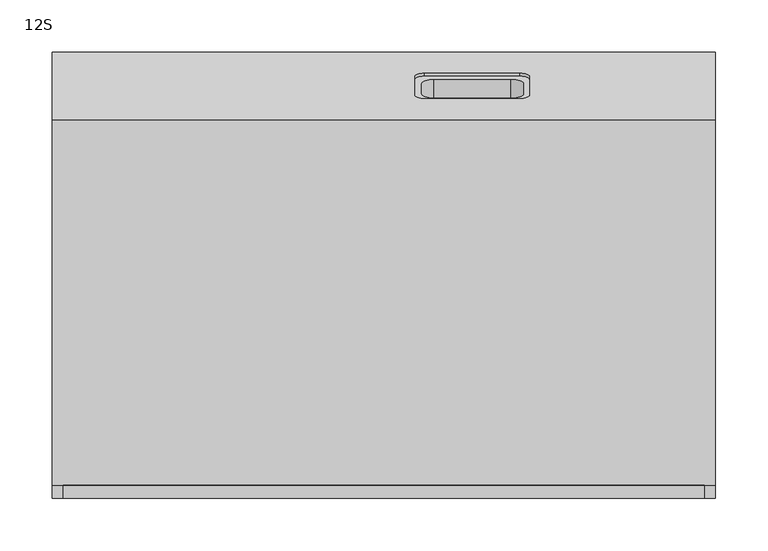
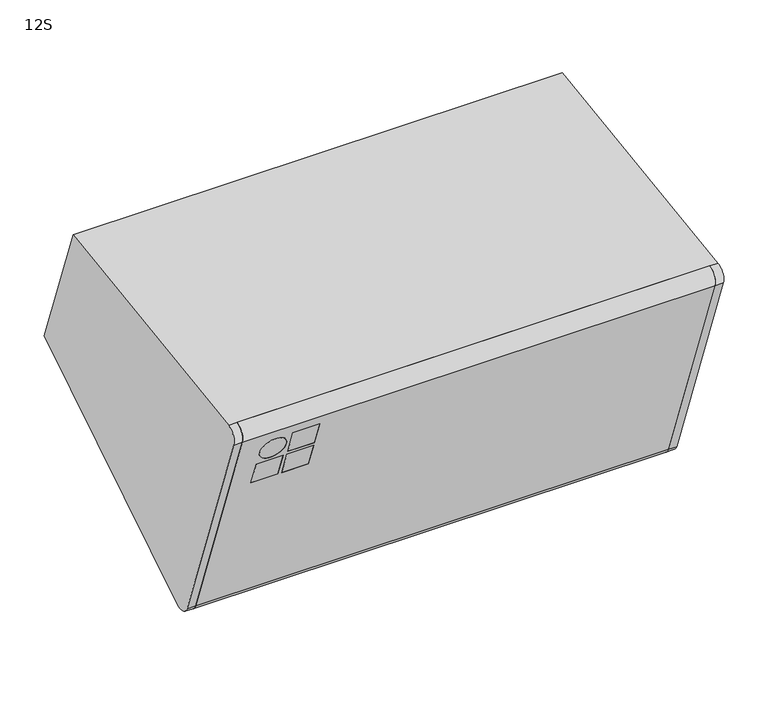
"""IFC4 building model written with IfcOpenShell, lengths in millimetres: proxy geometry, d&b xS-Series 12S Point Source : 12S."""

from ifc_helpers import new_model, si_unit, point, frame, frame_2d, origin, place, context, project, spatial, polyline, circle_curve, trimmed, segment, composite_curve, outline, extrude, source, transform, mapped, element, save
from ifc_brep_helpers import plane_surface, cylinder_surface, revolved_surface, advanced_brep


def proxy_12s_62eb7dd9(model_context):
    return source(origin(), model_context, "Body", "SolidModel", [
        extrude(outline(composite_curve([segment(trimmed(circle_curve(frame_2d((-104.7354348, -201.9789949)), 10.0), [point((-98.5552177, -209.8406052))], [point((-114.132361, -205.3991963))], False, "CARTESIAN"), True, "CONTINUOUS"), segment(polyline([(-114.132361, -205.3991963), (-219.4585194, 83.9820455)]), True, "CONTINUOUS"), segment(trimmed(circle_curve(frame_2d((-210.0615932, 87.4022469)), 10.0), [point((-219.4585194, 83.9820455))], [point((-210.3806179, 97.3971568))], False, "CARTESIAN"), True, "CONTINUOUS"), segment(polyline([(-210.3806179, 97.3971568), (-98.5552177, -209.8406052)]), True, "CONTINUOUS")], self_intersect=False)), frame((-311.0, 0.0, 0.0), z_axis=(1.0, 0.0, 0.0), x_axis=(0.0, 1.0, 0.0)), (0.0, 0.0, 1.0), 622.0),
        advanced_brep(
        [(-204.0, -206.9438659, 34.9792956), (-204.0, -202.2454028, 36.6893963), (-239.0, -202.2454028, 36.6893963), (-239.0, -206.9438659, 34.9792956), (-239.0, -214.2161078, 69.5786381), (-239.0, -218.9145709, 67.8685374), (-204.0, -214.2161078, 69.5786381), (-204.0, -218.9145709, 67.8685374), (-204.0, -193.2630602, -2.6084092), (-204.0, -188.5645971, -0.8983085), (-239.0, -188.5645971, -0.8983085), (-239.0, -193.2630602, -2.6084092), (-239.0, -200.5353021, 31.9909332), (-239.0, -205.2337652, 30.2808325), (-204.0, -200.5353021, 31.9909332), (-204.0, -205.2337652, 30.2808325), (-244.0, -193.2630602, -2.6084092), (-244.0, -188.5645971, -0.8983085), (-279.0, -188.5645971, -0.8983085), (-279.0, -193.2630602, -2.6084092), (-279.0, -200.5353021, 31.9909332), (-279.0, -205.2337652, 30.2808325), (-244.0, -200.5353021, 31.9909332), (-244.0, -205.2337652, 30.2808325), (-279.0, -212.9292184, 51.4239165), (-279.0, -208.2307553, 53.1340172), (-244.0, -208.2307553, 53.1340172), (-244.0, -212.9292184, 51.4239165), (308.0, -210.3806179, 97.3971568), (308.0, -212.1491897, 102.2562679), (308.0, -224.1569825, 82.2719447), (308.0, -118.8308241, -207.1092971), (308.0, -96.7866458, -214.6997164), (308.0, -98.5552177, -209.8406052), (308.0, -114.132361, -205.3991963), (308.0, -219.4585194, 83.9820455), (-308.0, -210.3806179, 97.3971568), (-308.0, -219.4585194, 83.9820455), (-308.0, -114.132361, -205.3991963), (-308.0, -98.5552177, -209.8406052), (-308.0, -96.7866458, -214.6997164), (-308.0, -118.8308241, -207.1092971), (-308.0, -224.1569825, 82.2719447), (-308.0, -212.1491897, 102.2562679)],
        [
            (0, 1),
            (1, 2),
            (2, 3),
            (3, 0),
            (2, 4),
            (4, 5),
            (5, 3),
            (4, 6),
            (6, 7),
            (7, 5),
            (0, 7),
            (6, 1),
            (8, 9),
            (9, 10),
            (10, 11),
            (11, 8),
            (10, 12),
            (12, 13),
            (13, 11),
            (12, 14),
            (14, 15),
            (15, 13),
            (8, 15),
            (14, 9),
            (16, 17),
            (17, 18),
            (18, 19),
            (19, 16),
            (18, 20),
            (20, 21),
            (21, 19),
            (20, 22),
            (22, 23),
            (23, 21),
            (16, 23),
            (22, 17),
            (24, 25),
            (25, 26, circle_curve(frame((-261.5, -208.2307553, 53.1340172), z_axis=(0.0, 0.9396926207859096, 0.3420201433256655), x_axis=(1.0, 0.0, 0.0)), 17.5)),
            (26, 27),
            (27, 24, circle_curve(frame((-261.5, -212.9292184, 51.4239165), z_axis=(0.0, -0.9396926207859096, -0.3420201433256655), x_axis=(1.0, 0.0, 0.0)), 17.5)),
            (24, 27, circle_curve(frame((-261.5, -212.9292184, 51.4239165), z_axis=(0.0, -0.9396926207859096, -0.3420201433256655), x_axis=(1.0, 0.0, 0.0)), 17.5)),
            (26, 25, circle_curve(frame((-261.5, -208.2307553, 53.1340172), z_axis=(0.0, 0.9396926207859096, 0.3420201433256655), x_axis=(1.0, 0.0, 0.0)), 17.5)),
            (28, 29),
            (29, 30, circle_curve(frame((308.0, -210.0615932, 87.4022469), z_axis=(1.0, 0.0, 0.0), x_axis=(0.0, -0.9396926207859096, -0.3420201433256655)), 15.0)),
            (30, 31),
            (31, 32, circle_curve(frame((308.0, -104.7354348, -201.9789949), z_axis=(1.0, 0.0, 0.0), x_axis=(0.0, -0.9396926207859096, -0.3420201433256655)), 15.0)),
            (32, 33),
            (33, 34, circle_curve(frame((308.0, -104.7354348, -201.9789949), z_axis=(-1.0, 0.0, 0.0), x_axis=(0.0, -0.9396926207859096, -0.3420201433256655)), 10.0)),
            (34, 35),
            (35, 28, circle_curve(frame((308.0, -210.0615932, 87.4022469), z_axis=(-1.0, 0.0, 0.0), x_axis=(0.0, -0.9396926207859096, -0.3420201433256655)), 10.0)),
            (36, 37, circle_curve(frame((-308.0, -210.0615932, 87.4022469), z_axis=(1.0, 0.0, 0.0), x_axis=(0.0, -0.9396926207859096, -0.3420201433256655)), 10.0)),
            (37, 38),
            (38, 39, circle_curve(frame((-308.0, -104.7354348, -201.9789949), z_axis=(1.0, 0.0, 0.0), x_axis=(0.0, -0.9396926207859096, -0.3420201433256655)), 10.0)),
            (39, 40),
            (40, 41, circle_curve(frame((-308.0, -104.7354348, -201.9789949), z_axis=(-1.0, 0.0, 0.0), x_axis=(0.0, -0.9396926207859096, -0.3420201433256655)), 15.0)),
            (41, 42),
            (42, 43, circle_curve(frame((-308.0, -210.0615932, 87.4022469), z_axis=(-1.0, 0.0, 0.0), x_axis=(0.0, -0.9396926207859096, -0.3420201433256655)), 15.0)),
            (43, 36),
            (28, 36),
            (43, 29),
            (42, 30),
            (41, 31),
            (40, 32),
            (39, 33),
            (38, 34),
            (37, 35),
        ],
        [
            plane_surface(frame((-239.0, -206.9438659, 34.9792956), z_axis=(0.0, -0.3420201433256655, 0.9396926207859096), x_axis=(0.0, 0.9396926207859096, 0.3420201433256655))),
            plane_surface(frame((-239.0, -218.9145709, 67.8685374), z_axis=(1.0000000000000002, 0.0, 0.0), x_axis=(0.0, 0.9396926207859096, 0.3420201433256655))),
            plane_surface(frame((-204.0, -218.9145709, 67.8685374), z_axis=(0.0, 0.3420201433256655, -0.9396926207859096), x_axis=(0.0, 0.9396926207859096, 0.3420201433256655))),
            plane_surface(frame((-204.0, -206.9438659, 34.9792956), z_axis=(-1.0000000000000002, 0.0, 0.0), x_axis=(0.0, 0.9396926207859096, 0.3420201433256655))),
            plane_surface(frame((-239.0, -193.2630602, -2.6084092), z_axis=(0.0, -0.3420201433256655, 0.9396926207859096), x_axis=(0.0, 0.9396926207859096, 0.3420201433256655))),
            plane_surface(frame((-239.0, -205.2337652, 30.2808325), z_axis=(1.0000000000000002, 0.0, 0.0), x_axis=(0.0, 0.9396926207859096, 0.3420201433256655))),
            plane_surface(frame((-204.0, -205.2337652, 30.2808325), z_axis=(0.0, 0.3420201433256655, -0.9396926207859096), x_axis=(0.0, 0.9396926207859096, 0.3420201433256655))),
            plane_surface(frame((-204.0, -193.2630602, -2.6084092), z_axis=(-1.0000000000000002, 0.0, 0.0), x_axis=(0.0, 0.9396926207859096, 0.3420201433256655))),
            plane_surface(frame((-279.0, -193.2630602, -2.6084092), z_axis=(0.0, -0.3420201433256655, 0.9396926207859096), x_axis=(0.0, 0.9396926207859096, 0.3420201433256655))),
            plane_surface(frame((-279.0, -205.2337652, 30.2808325), z_axis=(1.0000000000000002, 0.0, 0.0), x_axis=(0.0, 0.9396926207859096, 0.3420201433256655))),
            plane_surface(frame((-244.0, -205.2337652, 30.2808325), z_axis=(0.0, 0.3420201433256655, -0.9396926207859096), x_axis=(0.0, 0.9396926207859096, 0.3420201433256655))),
            plane_surface(frame((-244.0, -193.2630602, -2.6084092), z_axis=(-1.0000000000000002, 0.0, 0.0), x_axis=(0.0, 0.9396926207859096, 0.3420201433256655))),
            revolved_surface(polyline([(-244.0, -212.9292184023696, 51.423916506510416), (-244.0, -208.23075530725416, 53.13401721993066)]), (-261.5, -182.1521316, 62.62586), (0.0, -0.9396926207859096, -0.3420201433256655)),
            plane_surface(frame((308.0, -212.1491897, 102.2562679), z_axis=(1.0000000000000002, 0.0, 0.0), x_axis=(0.0, -0.3420201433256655, 0.9396926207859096))),
            plane_surface(frame((-308.0, -212.1491897, 102.2562679), z_axis=(-1.0000000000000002, 0.0, 0.0), x_axis=(0.0, 0.3420201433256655, -0.9396926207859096))),
            plane_surface(frame((308.0, -210.3806179, 97.3971568), z_axis=(0.0, 0.9396926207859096, 0.3420201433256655), x_axis=(-1.0, 0.0, 0.0))),
            cylinder_surface(frame((-308.0, -210.0615932, 87.4022469), z_axis=(1.0, 0.0, 0.0), x_axis=(0.0, -0.9396926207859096, -0.3420201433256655)), 15.0),
            plane_surface(frame((308.0, -224.1569825, 82.2719447), z_axis=(0.0, -0.9396926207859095, -0.34202014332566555), x_axis=(-1.0, 0.0, 0.0))),
            cylinder_surface(frame((-308.0, -104.7354348, -201.9789949), z_axis=(1.0, 0.0, 0.0), x_axis=(0.0, -0.9396926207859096, -0.3420201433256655)), 15.0),
            plane_surface(frame((308.0, -96.7866458, -214.6997164), z_axis=(0.0, 0.9396926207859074, 0.3420201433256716), x_axis=(-1.0, 0.0, 0.0))),
            revolved_surface(polyline([(-308.0, -114.13236100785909, -205.39919633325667), (308.0, -114.13236100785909, -205.39919633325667)]), (-308.0, -104.7354348, -201.9789949), (-1.0, 0.0, 0.0)),
            plane_surface(frame((308.0, -114.132361, -205.3991963), z_axis=(0.0, 0.9396926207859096, 0.3420201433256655), x_axis=(-1.0, 0.0, 0.0))),
            revolved_surface(polyline([(-308.0, -219.45851940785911, 83.98204546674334), (308.0, -219.45851940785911, 83.98204546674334)]), (-308.0, -210.0615932, 87.4022469), (-1.0, 0.0, 0.0)),
        ],
        [
            (0, [[1, 2, 3, 4]]),
            (1, [[-3, 5, 6, 7]]),
            (2, [[-6, 8, 9, 10]]),
            (3, [[-1, 11, -9, 12]]),
            (4, [[13, 14, 15, 16]]),
            (5, [[-15, 17, 18, 19]]),
            (6, [[-18, 20, 21, 22]]),
            (7, [[-13, 23, -21, 24]]),
            (8, [[25, 26, 27, 28]]),
            (9, [[-27, 29, 30, 31]]),
            (10, [[-30, 32, 33, 34]]),
            (11, [[-25, 35, -33, 36]]),
            (12, [[37, 38, 39, 40]]),
            (12, [[-37, 41, -39, 42]]),
            (13, [[43, 44, 45, 46, 47, 48, 49, 50]]),
            (14, [[51, 52, 53, 54, 55, 56, 57, 58]]),
            (15, [[-43, 59, -58, 60]]),
            (16, [[-44, -60, -57, 61]]),
            (17, [[-45, -61, -56, 62], [-4, -7, -10, -11], [-16, -19, -22, -23], [-28, -31, -34, -35], [-40, -41]]),
            (18, [[-46, -62, -55, 63]]),
            (19, [[-47, -63, -54, 64]]),
            (20, [[-48, -64, -53, 65]]),
            (21, [[-49, -65, -52, 66], [-2, -12, -8, -5], [-14, -24, -20, -17], [-26, -36, -32, -29], [-38, -42]]),
            (22, [[-50, -66, -51, -59]]),
        ],
    ),
        extrude(outline(polyline([(0.0, -35.0), (0.0, 0.0), (5.0, 0.0), (5.0, -35.0), (0.0, -35.0)])), frame((-239.0, -206.9438659, 34.9792956), z_axis=(0.0, -0.3420201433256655, 0.9396926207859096), x_axis=(0.0, 0.9396926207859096, 0.3420201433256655)), (0.0, 0.0, 1.0), 35.0),
        extrude(outline(polyline([(0.0, -35.0), (0.0, 0.0), (5.0, 0.0), (5.0, -35.0), (0.0, -35.0)])), frame((-239.0, -193.2630602, -2.6084092), z_axis=(0.0, -0.3420201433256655, 0.9396926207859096), x_axis=(0.0, 0.9396926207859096, 0.3420201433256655)), (0.0, 0.0, 1.0), 35.0),
        extrude(outline(polyline([(0.0, -35.0), (0.0, 0.0), (5.0, 0.0), (5.0, -35.0), (0.0, -35.0)])), frame((-279.0, -193.2630602, -2.6084092), z_axis=(0.0, -0.3420201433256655, 0.9396926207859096), x_axis=(0.0, 0.9396926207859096, 0.3420201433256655)), (0.0, 0.0, 1.0), 35.0),
        extrude(outline(composite_curve([segment(trimmed(circle_curve(frame_2d((-12.5, -57.5)), 17.5), [point((-12.5, -75.0))], [point((-12.5, -40.0))], False, "CARTESIAN"), True, "CONTINUOUS"), segment(trimmed(circle_curve(frame_2d((-12.5, -57.5)), 17.5), [point((-12.5, -40.0))], [point((-12.5, -75.0))], False, "CARTESIAN"), True, "CONTINUOUS")], self_intersect=False)), frame((-204.0, -217.2044702, 63.1700743), z_axis=(0.0, 0.9396926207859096, 0.3420201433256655), x_axis=(0.0, -0.3420201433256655, 0.9396926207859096)), (0.0, 0.0, 1.0), 5.0),
        advanced_brep(
        [(-319.0, 139.0304269, 151.6113444), (-319.0, 203.9573796, -26.7739921), (-319.0, -96.7866458, -214.6997164), (-319.0, -118.8308241, -207.1092971), (-319.0, -224.1569825, 82.2719447), (-319.0, -212.1491897, 102.2562679), (319.0, 139.0304269, 151.6113444), (319.0, -212.1491897, 102.2562679), (319.0, -224.1569825, 82.2719447), (319.0, -118.8308241, -207.1092971), (319.0, -96.7866458, -214.6997164), (319.0, 203.9573796, -26.7739921), (131.0, 156.7041204, 94.2818575), (140.0, 159.7823017, 85.8246239), (140.0, 177.5673492, 36.9606076), (131.0, 180.6455304, 28.503374), (39.0, 180.6455304, 28.503374), (30.0, 177.5673492, 36.9606076), (30.0, 159.7823017, 85.8246239), (39.0, 156.7041204, 94.2818575), (48.5, 159.7927223, 85.7959934), (36.5, 163.8969641, 74.519682), (36.5, 173.4526868, 48.2655495), (48.5, 177.5569285, 36.989238), (122.5, 177.5569285, 36.989238), (134.5, 173.4526868, 48.2655495), (134.5, 163.8969641, 74.519682), (122.5, 159.7927223, 85.7959934), (131.0, 159.5231983, 95.3079179), (140.0, 162.6013796, 86.8506843), (140.0, 180.386427, 37.986668), (131.0, 183.4646083, 29.5294344), (39.0, 183.4646083, 29.5294344), (30.0, 180.386427, 37.986668), (30.0, 162.6013796, 86.8506843), (39.0, 159.5231983, 95.3079179), (36.5, 146.0428043, 68.0212993), (48.5, 141.9385625, 79.2976107), (122.5, 141.9385625, 79.2976107), (134.5, 146.0428043, 68.0212993), (134.5, 155.598527, 41.7671668), (122.5, 159.7027687, 30.4908553), (48.5, 159.7027687, 30.4908553), (36.5, 155.598527, 41.7671668), (308.0, -96.7866458, -214.6997164), (308.0, -118.8308241, -207.1092971), (308.0, -224.1569825, 82.2719447), (308.0, -212.1491897, 102.2562679), (-308.0, -212.1491897, 102.2562679), (-308.0, -224.1569825, 82.2719447), (-308.0, -118.8308241, -207.1092971), (-308.0, -96.7866458, -214.6997164)],
        [
            (0, 1),
            (1, 2),
            (2, 3, circle_curve(frame((-319.0, -104.7354348, -201.9789949), z_axis=(-1.0, 0.0, 0.0), x_axis=(0.0, -0.9396926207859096, -0.3420201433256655)), 15.0)),
            (3, 4),
            (4, 5, circle_curve(frame((-319.0, -210.0615932, 87.4022469), z_axis=(-1.0, 0.0, 0.0), x_axis=(0.0, -0.9396926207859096, -0.3420201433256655)), 15.0)),
            (5, 0),
            (6, 7),
            (7, 8, circle_curve(frame((319.0, -210.0615932, 87.4022469), z_axis=(1.0, 0.0, 0.0), x_axis=(0.0, -0.9396926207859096, -0.3420201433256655)), 15.0)),
            (8, 9),
            (9, 10, circle_curve(frame((319.0, -104.7354348, -201.9789949), z_axis=(1.0, 0.0, 0.0), x_axis=(0.0, -0.9396926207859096, -0.3420201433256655)), 15.0)),
            (10, 11),
            (11, 6),
            (12, 13, circle_curve(frame((131.0, 159.7823017, 85.8246239), z_axis=(0.0, 0.9396926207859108, 0.34202014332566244), x_axis=(0.0, -0.34202014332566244, 0.9396926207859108)), 9.0)),
            (13, 14),
            (14, 15, circle_curve(frame((131.0, 177.5673492, 36.9606076), z_axis=(0.0, 0.9396926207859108, 0.34202014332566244), x_axis=(0.0, -0.34202014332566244, 0.9396926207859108)), 9.0)),
            (15, 16),
            (16, 17, circle_curve(frame((39.0, 177.5673492, 36.9606076), z_axis=(0.0, 0.9396926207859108, 0.34202014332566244), x_axis=(0.0, -0.34202014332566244, 0.9396926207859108)), 9.0)),
            (17, 18),
            (18, 19, circle_curve(frame((39.0, 159.7823017, 85.8246239), z_axis=(0.0, 0.9396926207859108, 0.34202014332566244), x_axis=(0.0, -0.34202014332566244, 0.9396926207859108)), 9.0)),
            (19, 12),
            (20, 21, circle_curve(frame((48.5, 163.8969641, 74.519682), z_axis=(0.0, -0.9396926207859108, -0.34202014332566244), x_axis=(0.0, -0.34202014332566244, 0.9396926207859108)), 12.0)),
            (21, 22),
            (22, 23, circle_curve(frame((48.5, 173.4526868, 48.2655495), z_axis=(0.0, -0.9396926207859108, -0.34202014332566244), x_axis=(0.0, -0.34202014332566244, 0.9396926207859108)), 12.0)),
            (23, 24),
            (24, 25, circle_curve(frame((122.5, 173.4526868, 48.2655495), z_axis=(0.0, -0.9396926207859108, -0.34202014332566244), x_axis=(0.0, -0.34202014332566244, 0.9396926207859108)), 12.0)),
            (25, 26),
            (26, 27, circle_curve(frame((122.5, 163.8969641, 74.519682), z_axis=(0.0, -0.9396926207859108, -0.34202014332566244), x_axis=(0.0, -0.34202014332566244, 0.9396926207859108)), 12.0)),
            (27, 20),
            (12, 28),
            (28, 29, circle_curve(frame((131.0, 162.6013796, 86.8506843), z_axis=(0.0, 0.9396926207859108, 0.34202014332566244), x_axis=(0.0, -0.34202014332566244, 0.9396926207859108)), 9.0)),
            (29, 13),
            (29, 30),
            (30, 14),
            (30, 31, circle_curve(frame((131.0, 180.386427, 37.986668), z_axis=(0.0, 0.9396926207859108, 0.34202014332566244), x_axis=(0.0, -0.34202014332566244, 0.9396926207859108)), 9.0)),
            (31, 15),
            (31, 32),
            (32, 16),
            (32, 33, circle_curve(frame((39.0, 180.386427, 37.986668), z_axis=(0.0, 0.9396926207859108, 0.34202014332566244), x_axis=(0.0, -0.34202014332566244, 0.9396926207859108)), 9.0)),
            (33, 17),
            (33, 34),
            (34, 18),
            (34, 35, circle_curve(frame((39.0, 162.6013796, 86.8506843), z_axis=(0.0, 0.9396926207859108, 0.34202014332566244), x_axis=(0.0, -0.34202014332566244, 0.9396926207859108)), 9.0)),
            (35, 19),
            (35, 28),
            (36, 37, circle_curve(frame((48.5, 146.0428043, 68.0212993), z_axis=(0.0, 0.9396926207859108, 0.34202014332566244), x_axis=(0.0, -0.34202014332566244, 0.9396926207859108)), 12.0)),
            (37, 38),
            (38, 39, circle_curve(frame((122.5, 146.0428043, 68.0212993), z_axis=(0.0, 0.9396926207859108, 0.34202014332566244), x_axis=(0.0, -0.34202014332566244, 0.9396926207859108)), 12.0)),
            (39, 40),
            (40, 41, circle_curve(frame((122.5, 155.598527, 41.7671668), z_axis=(0.0, 0.9396926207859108, 0.34202014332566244), x_axis=(0.0, -0.34202014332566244, 0.9396926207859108)), 12.0)),
            (41, 42),
            (42, 43, circle_curve(frame((48.5, 155.598527, 41.7671668), z_axis=(0.0, 0.9396926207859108, 0.34202014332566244), x_axis=(0.0, -0.34202014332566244, 0.9396926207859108)), 12.0)),
            (43, 36),
            (44, 45, circle_curve(frame((308.0, -104.7354348, -201.9789949), z_axis=(-1.0, 0.0, 0.0), x_axis=(0.0, -0.9396926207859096, -0.3420201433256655)), 15.0)),
            (45, 46),
            (46, 47, circle_curve(frame((308.0, -210.0615932, 87.4022469), z_axis=(-1.0, 0.0, 0.0), x_axis=(0.0, -0.9396926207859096, -0.3420201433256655)), 15.0)),
            (47, 44),
            (48, 49, circle_curve(frame((-308.0, -210.0615932, 87.4022469), z_axis=(1.0, 0.0, 0.0), x_axis=(0.0, -0.9396926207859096, -0.3420201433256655)), 15.0)),
            (49, 50),
            (50, 51, circle_curve(frame((-308.0, -104.7354348, -201.9789949), z_axis=(1.0, 0.0, 0.0), x_axis=(0.0, -0.9396926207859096, -0.3420201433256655)), 15.0)),
            (51, 48),
            (36, 21),
            (20, 37),
            (27, 38),
            (26, 39),
            (25, 40),
            (24, 41),
            (23, 42),
            (22, 43),
            (0, 6),
            (11, 1),
            (10, 44),
            (44, 51),
            (51, 2),
            (47, 48),
            (5, 48),
            (47, 7),
            (46, 8),
            (45, 9),
            (4, 49),
            (3, 50),
        ],
        [
            plane_surface(frame((-319.0, 139.0304269, 151.6113444), z_axis=(-1.0000000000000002, 0.0, 0.0), x_axis=(0.0, 0.3420201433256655, -0.9396926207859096))),
            plane_surface(frame((319.0, 139.0304269, 151.6113444), z_axis=(1.0000000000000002, 0.0, 0.0), x_axis=(0.0, -0.3420201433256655, 0.9396926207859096))),
            plane_surface(frame((131.0, 156.7041204, 94.2818575), z_axis=(0.0, 0.9396926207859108, 0.34202014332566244), x_axis=(-1.0, 0.0, 0.0))),
            revolved_surface(polyline([(131.0, 159.5231982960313, 95.30791792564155), (131.0, 156.70412040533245, 94.28185748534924)]), (131.0, 159.7823017, 85.8246239), (0.0, 0.9396926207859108, 0.34202014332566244)),
            plane_surface(frame((140.0, 162.6013796, 86.8506843), z_axis=(-1.0000000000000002, 0.0, 0.0), x_axis=(0.0, -0.9396926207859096, -0.3420201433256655))),
            revolved_surface(polyline([(131.0, 177.3082457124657, 46.44390159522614), (131.0, 174.4891678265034, 45.4178411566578)]), (131.0, 177.5673492, 36.9606076), (0.0, 0.9396926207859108, 0.34202014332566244)),
            plane_surface(frame((131.0, 183.4646083, 29.5294344), z_axis=(0.0, -0.3420201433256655, 0.9396926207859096), x_axis=(0.0, -0.9396926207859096, -0.3420201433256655))),
            revolved_surface(polyline([(39.0, 177.3082457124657, 46.44390159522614), (39.0, 174.4891678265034, 45.4178411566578)]), (39.0, 177.5673492, 36.9606076), (0.0, 0.9396926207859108, 0.34202014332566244)),
            plane_surface(frame((30.0, 180.386427, 37.986668), z_axis=(1.0000000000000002, 0.0, 0.0), x_axis=(0.0, -0.9396926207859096, -0.3420201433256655))),
            revolved_surface(polyline([(39.0, 159.5231982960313, 95.30791792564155), (39.0, 156.70412040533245, 94.28185748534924)]), (39.0, 159.7823017, 85.8246239), (0.0, 0.9396926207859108, 0.34202014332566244)),
            plane_surface(frame((39.0, 159.5231983, 95.3079179), z_axis=(0.0, 0.3420201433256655, -0.9396926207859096), x_axis=(0.0, -0.9396926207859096, -0.3420201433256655))),
            plane_surface(frame((48.5, 141.9385625, 79.2976107), z_axis=(0.0, 0.9396926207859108, 0.34202014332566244), x_axis=(-1.0, 0.0, 0.0))),
            plane_surface(frame((308.0, -212.1491897, 102.2562679), z_axis=(-1.0, 0.0, 0.0), x_axis=(0.0, 0.3420201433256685, -0.9396926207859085))),
            plane_surface(frame((-308.0, -114.132361, -205.3991963), z_axis=(1.0, 0.0, 0.0), x_axis=(0.0, 0.34202014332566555, -0.9396926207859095))),
            revolved_surface(polyline([(48.5, 159.7927223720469, 85.79599347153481), (48.5, 141.93856249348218, 79.29761071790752)]), (48.5, 146.0428043, 68.0212993), (0.0, 0.9396926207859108, 0.34202014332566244)),
            plane_surface(frame((48.5, 159.7927223, 85.7959934), z_axis=(0.0, 0.3420201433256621, -0.9396926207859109), x_axis=(0.0, -0.9396926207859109, -0.3420201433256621))),
            revolved_surface(polyline([(122.5, 159.7927223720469, 85.79599347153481), (122.5, 141.93856249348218, 79.29761071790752)]), (122.5, 146.0428043, 68.0212993), (0.0, 0.9396926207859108, 0.34202014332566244)),
            plane_surface(frame((134.5, 163.8969641, 74.519682), z_axis=(-1.0000000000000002, 0.0, 0.0), x_axis=(0.0, -0.9396926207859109, -0.3420201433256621))),
            revolved_surface(polyline([(122.5, 169.3484450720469, 59.54186097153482), (122.5, 151.49428524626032, 53.043478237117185)]), (122.5, 155.598527, 41.7671668), (0.0, 0.9396926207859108, 0.34202014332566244)),
            plane_surface(frame((122.5, 177.5569285, 36.989238), z_axis=(0.0, -0.3420201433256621, 0.9396926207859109), x_axis=(0.0, -0.9396926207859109, -0.3420201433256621))),
            revolved_surface(polyline([(48.5, 169.3484450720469, 59.54186097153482), (48.5, 151.49428524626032, 53.043478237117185)]), (48.5, 155.598527, 41.7671668), (0.0, 0.9396926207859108, 0.34202014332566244)),
            plane_surface(frame((36.5, 173.4526868, 48.2655495), z_axis=(1.0000000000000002, 0.0, 0.0), x_axis=(0.0, -0.9396926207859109, -0.3420201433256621))),
            plane_surface(frame((-319.0, 139.0304269, 151.6113444), z_axis=(0.0, 0.9396926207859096, 0.3420201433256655), x_axis=(1.0, 0.0, 0.0))),
            plane_surface(frame((-319.0, 203.9573796, -26.7739921), z_axis=(0.0, 0.5299192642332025, -0.8480480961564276), x_axis=(1.0, 0.0, 0.0))),
            plane_surface(frame((-319.0, -96.7866458, -214.6997164), z_axis=(0.0, -0.9396926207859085, -0.3420201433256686), x_axis=(1.0, 0.0, 0.0))),
            plane_surface(frame((-319.0, -212.1491897, 102.2562679), z_axis=(0.0, -0.13917310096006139, 0.9902680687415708), x_axis=(1.0, 0.0, 0.0))),
            cylinder_surface(frame((308.0, -210.0615932, 87.4022469), z_axis=(1.0, 0.0, 0.0), x_axis=(0.0, -0.9396926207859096, -0.3420201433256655)), 15.0),
            plane_surface(frame((319.0, -224.1569825, 82.2719447), z_axis=(0.0, -0.9396926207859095, -0.34202014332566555), x_axis=(-1.0, 0.0, 0.0))),
            cylinder_surface(frame((308.0, -104.7354348, -201.9789949), z_axis=(1.0, 0.0, 0.0), x_axis=(0.0, -0.9396926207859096, -0.3420201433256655)), 15.0),
            cylinder_surface(frame((-319.0, -210.0615932, 87.4022469), z_axis=(1.0, 0.0, 0.0), x_axis=(0.0, -0.9396926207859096, -0.3420201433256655)), 15.0),
            plane_surface(frame((-308.0, -224.1569825, 82.2719447), z_axis=(0.0, -0.9396926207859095, -0.34202014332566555), x_axis=(-1.0, 0.0, 0.0))),
            cylinder_surface(frame((-319.0, -104.7354348, -201.9789949), z_axis=(1.0, 0.0, 0.0), x_axis=(0.0, -0.9396926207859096, -0.3420201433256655)), 15.0),
        ],
        [
            (0, [[1, 2, 3, 4, 5, 6]]),
            (1, [[7, 8, 9, 10, 11, 12]]),
            (2, [[13, 14, 15, 16, 17, 18, 19, 20], [21, 22, 23, 24, 25, 26, 27, 28]]),
            (3, [[-13, 29, 30, 31]]),
            (4, [[-14, -31, 32, 33]]),
            (5, [[-15, -33, 34, 35]]),
            (6, [[-16, -35, 36, 37]]),
            (7, [[-17, -37, 38, 39]]),
            (8, [[-18, -39, 40, 41]]),
            (9, [[-19, -41, 42, 43]]),
            (10, [[-20, -43, 44, -29]]),
            (11, [[45, 46, 47, 48, 49, 50, 51, 52]]),
            (12, [[53, 54, 55, 56]]),
            (13, [[57, 58, 59, 60]]),
            (14, [[-45, 61, -21, 62]]),
            (15, [[-46, -62, -28, 63]]),
            (16, [[-47, -63, -27, 64]]),
            (17, [[-48, -64, -26, 65]]),
            (18, [[-49, -65, -25, 66]]),
            (19, [[-50, -66, -24, 67]]),
            (20, [[-51, -67, -23, 68]]),
            (21, [[-52, -68, -22, -61]]),
            (22, [[-1, 69, -12, 70], [-30, -44, -42, -40, -38, -36, -34, -32]]),
            (23, [[-2, -70, -11, 71, 72, 73]]),
            (24, [[-56, 74, -60, -72]]),
            (25, [[-6, 75, -74, 76, -7, -69]]),
            (26, [[-8, -76, -55, 77]]),
            (27, [[-9, -77, -54, 78]]),
            (28, [[-10, -78, -53, -71]]),
            (29, [[-57, -75, -5, 79]]),
            (30, [[-58, -79, -4, 80]]),
            (31, [[-59, -80, -3, -73]]),
        ],
    ),
    ])


if __name__ == "__main__":
    model = new_model("IFC4")
    model_context = context("Model", 3, world=origin())
    ifc_project = project(units=[si_unit("LENGTHUNIT", "METRE", prefix="MILLI")], contexts=[model_context])
    site = spatial("IfcSite", under=ifc_project)
    building = spatial("IfcBuilding", under=site)
    placement = place(None, origin())
    proxy_12s_shape = proxy_12s_62eb7dd9(model_context)
    element("IfcBuildingElementProxy", 1, Name="d&b xS-Series 12S Point Source : 12S", ObjectType="d&b xS-Series 12S Point Source : 12S", at=placement, inside=building, context=model_context, shape_type="MappedRepresentation", body=[
        mapped(proxy_12s_shape, transform((0.0, 0.0, 0.0), x_axis=(1.0, 0.0, 0.0), y_axis=(0.0, 1.0, 0.0), z_axis=(0.0, 0.0, 1.0))),
    ])
    save(model, "model.ifc")
